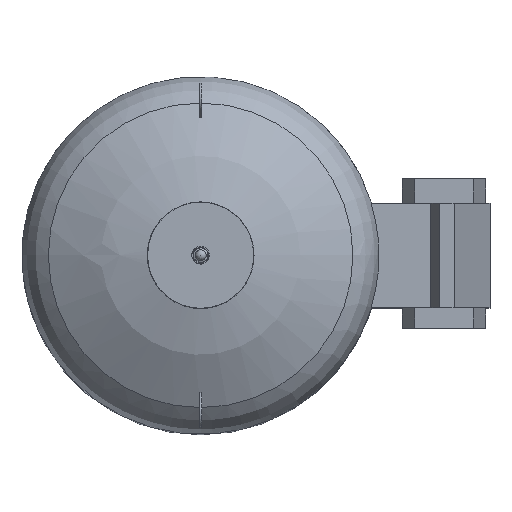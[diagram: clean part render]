
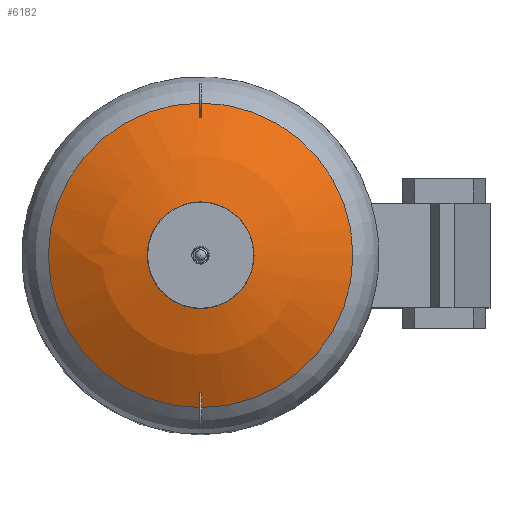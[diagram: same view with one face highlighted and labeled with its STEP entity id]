
A CAD part, top view. The second image highlights one B-rep face of the part: STEP entity #6182.
In plain terms, the highlighted spherical face has radius 633.9 mm.
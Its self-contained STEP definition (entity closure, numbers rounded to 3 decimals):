
#18=SPHERICAL_SURFACE('',#6840,633.9);
#796=FACE_OUTER_BOUND('',#1157,.T.);
#1157=EDGE_LOOP('',(#5347,#5348,#5349,#5350,#5351));
#2290=CIRCLE('',#6690,335.793);
#2291=CIRCLE('',#6691,335.793);
#2370=CIRCLE('',#6839,94.);
#2371=CIRCLE('',#6841,633.9);
#2853=VERTEX_POINT('',#10078);
#2854=VERTEX_POINT('',#10080);
#2981=VERTEX_POINT('',#10548);
#3624=EDGE_CURVE('',#2853,#2854,#2290,.T.);
#3625=EDGE_CURVE('',#2854,#2853,#2291,.T.);
#3820=EDGE_CURVE('',#2981,#2981,#2370,.T.);
#3821=EDGE_CURVE('',#2981,#2854,#2371,.T.);
#5347=ORIENTED_EDGE('',*,*,#3820,.T.);
#5348=ORIENTED_EDGE('',*,*,#3821,.T.);
#5349=ORIENTED_EDGE('',*,*,#3624,.F.);
#5350=ORIENTED_EDGE('',*,*,#3625,.F.);
#5351=ORIENTED_EDGE('',*,*,#3821,.F.);
#6182=ADVANCED_FACE('',(#796),#18,.T.);
#6690=AXIS2_PLACEMENT_3D('',#10081,#8121,#8122);
#6691=AXIS2_PLACEMENT_3D('',#10082,#8123,#8124);
#6839=AXIS2_PLACEMENT_3D('',#10549,#8497,#8498);
#6840=AXIS2_PLACEMENT_3D('',#10550,#8499,#8500);
#6841=AXIS2_PLACEMENT_3D('',#10551,#8501,#8502);
#8121=DIRECTION('center_axis',(0.,0.,-1.));
#8122=DIRECTION('ref_axis',(1.,0.,0.));
#8123=DIRECTION('center_axis',(0.,0.,-1.));
#8124=DIRECTION('ref_axis',(1.,0.,0.));
#8497=DIRECTION('center_axis',(0.,0.,-1.));
#8498=DIRECTION('ref_axis',(1.,0.,0.));
#8499=DIRECTION('center_axis',(0.,0.,1.));
#8500=DIRECTION('ref_axis',(1.,0.,0.));
#8501=DIRECTION('center_axis',(0.,-1.,0.));
#8502=DIRECTION('ref_axis',(-1.,0.,0.));
#10078=CARTESIAN_POINT('',(335.793,0.,1531.255));
#10080=CARTESIAN_POINT('',(-335.793,0.,1531.255));
#10081=CARTESIAN_POINT('Origin',(0.,0.,1531.255));
#10082=CARTESIAN_POINT('Origin',(0.,0.,1531.255));
#10548=CARTESIAN_POINT('',(-94.,0.,1620.492));
#10549=CARTESIAN_POINT('Origin',(0.,0.,1620.492));
#10550=CARTESIAN_POINT('Origin',(0.,0.,993.6));
#10551=CARTESIAN_POINT('Origin',(0.,0.,993.6));
